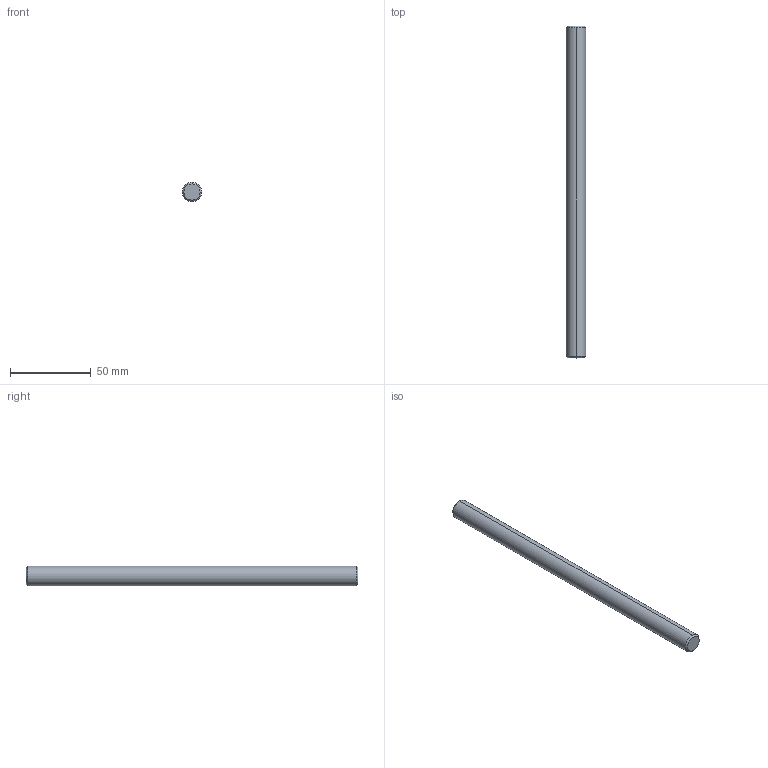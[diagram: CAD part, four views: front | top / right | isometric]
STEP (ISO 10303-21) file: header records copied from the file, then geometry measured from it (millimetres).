
FILE_DESCRIPTION (( 'STEP AP214' ), '1' );
FILE_NAME ('067RCB1BRS008.STEP', '2024-09-04T08:16:25', ( '' ), ( '' ), 'SwSTEP 2.0', 'SolidWorks 2023', '' );
FILE_SCHEMA (( 'AUTOMOTIVE_DESIGN' ));
Length unit declared in the file: millimetre
Products named in the file (1): 067RCB1BRS008
Bounding box: 12 x 205 x 12 mm (x, y, z)
Volume: 23149.3 mm3; surface area: 7907.7 mm2
Topology: 1 solids, 1 shells, 8 faces, 14 edges, 8 vertices
Faces by surface type: cone 4, plane 2, cylinder 2
Entity records: 217 total; most frequent: DIRECTION 40, CARTESIAN_POINT 31, ORIENTED_EDGE 28, AXIS2_PLACEMENT_3D 17, EDGE_CURVE 14, CIRCLE 8, VERTEX_POINT 8, EDGE_LOOP 8
